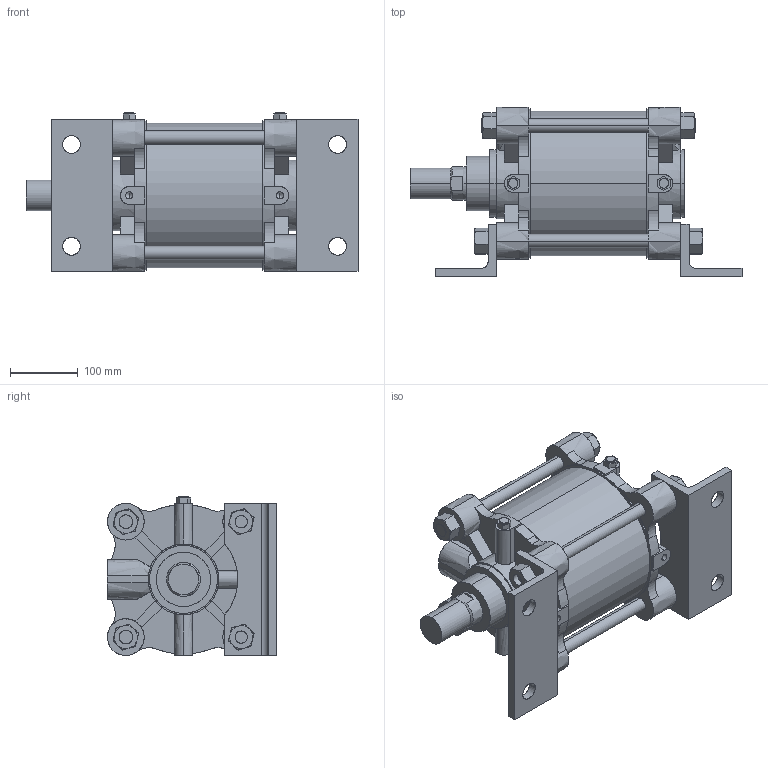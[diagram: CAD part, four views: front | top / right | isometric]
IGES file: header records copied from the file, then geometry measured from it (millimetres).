
Start section: SolidWorks IGES file using analytic representation for surfaces
Global section: file name: C:\Users\Toshiba\Desktop\A##2-200#-100-L.IGS; native system: SolidWorks 2014; preprocessor: SolidWorks 2014; author: Toshiba; date: 160331.150101; units: millimetre
Bounding box: 489 x 249 x 234 mm (x, y, z)
Surface area: 830014.7 mm2 (no closed solid volume)
Topology: 0 solids, 0 shells, 422 faces, 8256 edges, 8244 vertices
Faces by surface type: bspline 264, revolution 158
